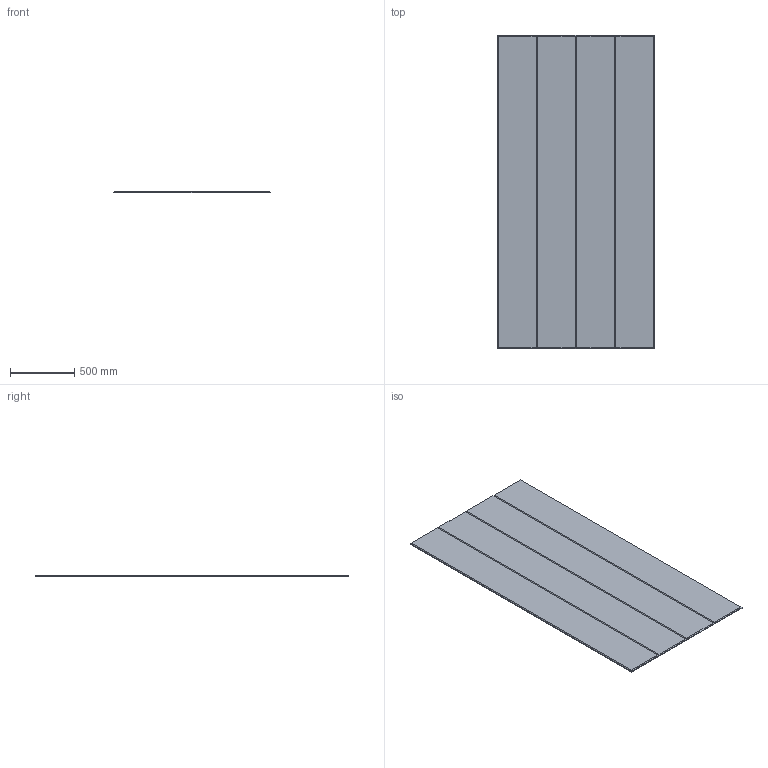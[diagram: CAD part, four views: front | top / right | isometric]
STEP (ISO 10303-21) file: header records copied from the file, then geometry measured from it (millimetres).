
FILE_DESCRIPTION(/* description */ (''),/* implementation_level */ '2;1');
FILE_NAME(/* name */ 'Y:\Design and Engineering\MaterialLogiq\CAD ASSETS\MASTER\PET ENGRAVED\WEB ASSETS\Longitude Sparse.stp',/* time_stamp */ '2024-08-26T10:08:35-05:00',/* author */ ('Grant Baker'),/* organization */ (''),/* preprocessor_version */ 'ST-DEVELOPER v19',/* originating_system */ 'Autodesk Inventor 2023',/* authorisation */ '');
FILE_SCHEMA (('AUTOMOTIVE_DESIGN { 1 0 10303 214 3 1 1 }'));
Length unit declared in the file: inch
Products named in the file (1): Longitude Sparse
Bounding box: 1219.2 x 2438.4 x 12.7 mm (x, y, z)
Volume: 37314710.3 mm3; surface area: 6049701.4 mm2
Topology: 1 solids, 1 shells, 25 faces, 53 edges, 30 vertices
Faces by surface type: plane 25
Entity records: 684 total; most frequent: CARTESIAN_POINT 109, ORIENTED_EDGE 106, DIRECTION 105, LINE 53, VECTOR 53, EDGE_CURVE 53, VERTEX_POINT 30, AXIS2_PLACEMENT_3D 26
